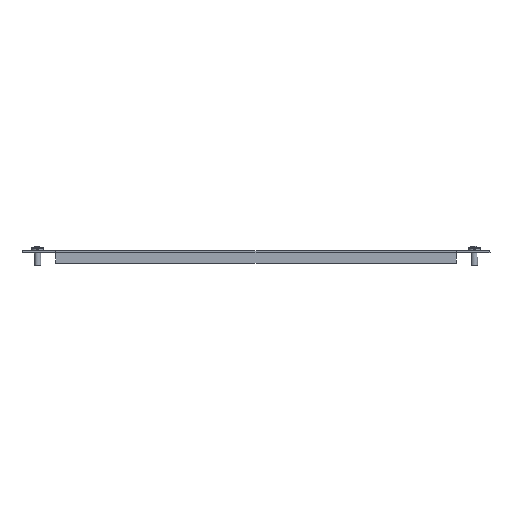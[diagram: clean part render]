
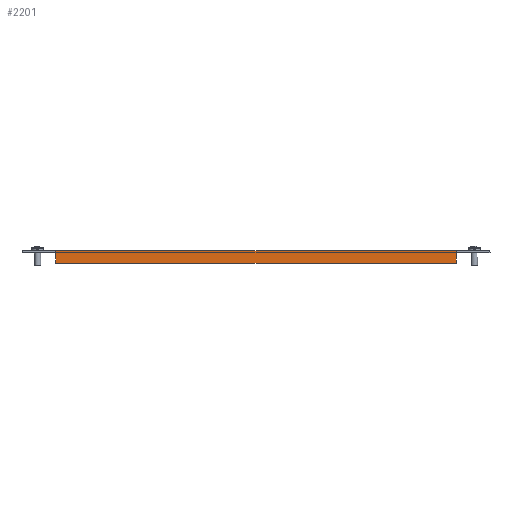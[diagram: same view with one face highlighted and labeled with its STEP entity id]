
A CAD part, front view. The second image highlights one B-rep face of the part: STEP entity #2201.
In plain terms, the highlighted planar face has unit normal (0, -1, 0).
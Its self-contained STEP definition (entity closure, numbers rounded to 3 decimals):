
#424 = VECTOR ( 'NONE', #1789, 1000. ) ;
#434 = VECTOR ( 'NONE', #617, 1000. ) ;
#592 = CARTESIAN_POINT ( 'NONE',  ( -160.5, -935., -2.4 ) ) ;
#617 = DIRECTION ( 'NONE',  ( 0., 0., 1. ) ) ;
#633 = CARTESIAN_POINT ( 'NONE',  ( -160.5, -935., -1.8 ) ) ;
#798 = CARTESIAN_POINT ( 'NONE',  ( 160.5, -935., -10. ) ) ;
#805 = EDGE_CURVE ( 'NONE', #2133, #2115, #2469, .T. ) ;
#1011 = CARTESIAN_POINT ( 'NONE',  ( -160.5, -935., -10. ) ) ;
#1194 = LINE ( 'NONE', #6443, #424 ) ;
#1210 = VECTOR ( 'NONE', #7019, 1000. ) ;
#1247 = CARTESIAN_POINT ( 'NONE',  ( 160.5, -935., 0. ) ) ;
#1460 = VECTOR ( 'NONE', #2632, 1000. ) ;
#1486 = LINE ( 'NONE', #7036, #1460 ) ;
#1607 = VECTOR ( 'NONE', #1928, 1000. ) ;
#1632 = LINE ( 'NONE', #7293, #434 ) ;
#1789 = DIRECTION ( 'NONE',  ( -1., 0., 0. ) ) ;
#1819 = CARTESIAN_POINT ( 'NONE',  ( -160.5, -935., 0. ) ) ;
#1906 = CARTESIAN_POINT ( 'NONE',  ( 160.5, -935., -2.4 ) ) ;
#1925 = LINE ( 'NONE', #633, #3967 ) ;
#1928 = DIRECTION ( 'NONE',  ( 0., 0., 1. ) ) ;
#1977 = EDGE_CURVE ( 'NONE', #2115, #5274, #1486, .T. ) ;
#2115 = VERTEX_POINT ( 'NONE', #798 ) ;
#2133 = VERTEX_POINT ( 'NONE', #1906 ) ;
#2201 = ADVANCED_FACE ( 'NONE', ( #6991 ), #4248, .T. ) ;
#2269 = ORIENTED_EDGE ( 'NONE', *, *, #3609, .T. ) ;
#2371 = ORIENTED_EDGE ( 'NONE', *, *, #1977, .F. ) ;
#2469 = LINE ( 'NONE', #4209, #1210 ) ;
#2632 = DIRECTION ( 'NONE',  ( -1., 0., 0. ) ) ;
#2666 = EDGE_CURVE ( 'NONE', #5274, #6026, #1925, .T. ) ;
#3030 = DIRECTION ( 'NONE',  ( 0., 0., -1. ) ) ;
#3421 = LINE ( 'NONE', #5130, #1607 ) ;
#3609 = EDGE_CURVE ( 'NONE', #2133, #6776, #3421, .T. ) ;
#3707 = VERTEX_POINT ( 'NONE', #1819 ) ;
#3967 = VECTOR ( 'NONE', #4644, 1000. ) ;
#4011 = DIRECTION ( 'NONE',  ( 0., -1., 0. ) ) ;
#4209 = CARTESIAN_POINT ( 'NONE',  ( 160.5, -935., -10. ) ) ;
#4248 = PLANE ( 'NONE',  #7062 ) ;
#4291 = EDGE_CURVE ( 'NONE', #6776, #3707, #1194, .T. ) ;
#4644 = DIRECTION ( 'NONE',  ( 0., 0., 1. ) ) ;
#5120 = CARTESIAN_POINT ( 'NONE',  ( 0., -935., 0. ) ) ;
#5130 = CARTESIAN_POINT ( 'NONE',  ( 160.5, -935., -2.4 ) ) ;
#5274 = VERTEX_POINT ( 'NONE', #1011 ) ;
#5628 = ORIENTED_EDGE ( 'NONE', *, *, #6552, .F. ) ;
#5662 = ORIENTED_EDGE ( 'NONE', *, *, #2666, .F. ) ;
#5957 = ORIENTED_EDGE ( 'NONE', *, *, #4291, .T. ) ;
#6026 = VERTEX_POINT ( 'NONE', #592 ) ;
#6443 = CARTESIAN_POINT ( 'NONE',  ( 0., -935., 0. ) ) ;
#6488 = ORIENTED_EDGE ( 'NONE', *, *, #805, .F. ) ;
#6552 = EDGE_CURVE ( 'NONE', #6026, #3707, #1632, .T. ) ;
#6776 = VERTEX_POINT ( 'NONE', #1247 ) ;
#6991 = FACE_OUTER_BOUND ( 'NONE', #7097, .T. ) ;
#7019 = DIRECTION ( 'NONE',  ( 0., 0., -1. ) ) ;
#7036 = CARTESIAN_POINT ( 'NONE',  ( -160.5, -935., -10. ) ) ;
#7062 = AXIS2_PLACEMENT_3D ( 'NONE', #5120, #4011, #3030 ) ;
#7097 = EDGE_LOOP ( 'NONE', ( #6488, #2269, #5957, #5628, #5662, #2371 ) ) ;
#7293 = CARTESIAN_POINT ( 'NONE',  ( -160.5, -935., 0. ) ) ;
